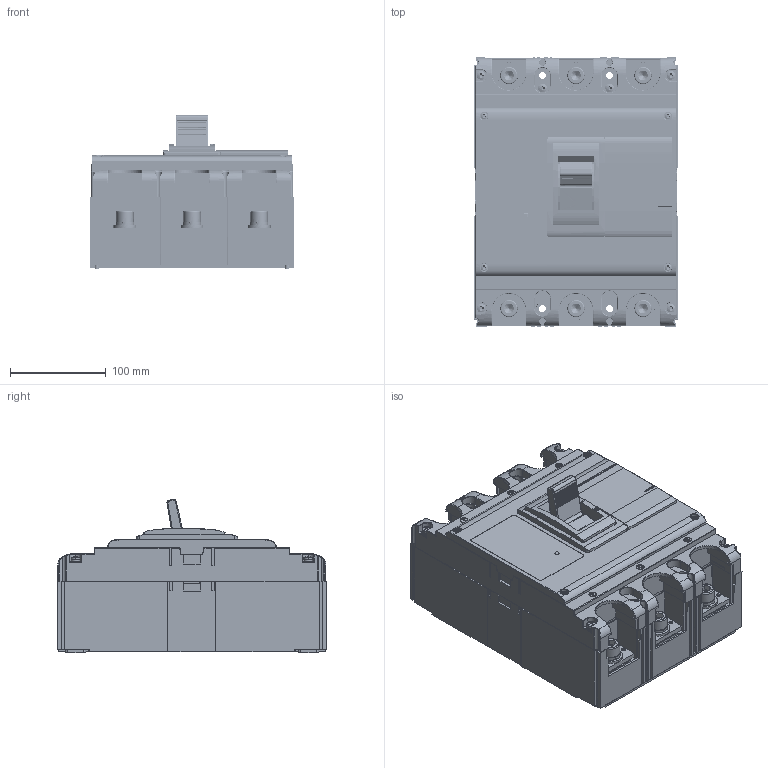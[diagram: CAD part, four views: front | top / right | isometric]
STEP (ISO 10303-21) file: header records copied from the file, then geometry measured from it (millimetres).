
FILE_DESCRIPTION (( 'STEP AP214' ), '1' );
FILE_NAME ('TGM1N-800-3P.STEP', '2025-12-19T06:43:07', ( '' ), ( '' ), 'SwSTEP 2.0', 'SolidWorks 2024', '' );
FILE_SCHEMA (( 'AUTOMOTIVE_DESIGN' ));
Length unit declared in the file: millimetre
Products named in the file (37): TENGEN_1N_TGM1N-800_3P_630-800A_11.stp; TENGEN_1N_TGM1N-800_3P_630-800A_2.stp; TENGEN_1N_TGM1N-800_3P_630-800A_33.stp; TENGEN_1N_TGM1N-800_3P_630-800A_8.stp; TENGEN_1N_TGM1N-800_3P_630-800A_17.stp; TENGEN_1N_TGM1N-800_3P_630-800A_21.stp; TENGEN_1N_TGM1N-800_3P_630-800A_24.stp; TENGEN_1N_TGM1N-800_3P_630-800A_5.stp; TENGEN_1N_TGM1N-800_3P_630-800A_14.stp; TGM1N-800-3P.stp; TENGEN_1N_TGM1N-800_3P_630-800A_25.stp; TENGEN_1N_TGM1N-800_3P_630-800A_9.stp; TENGEN_1N_TGM1N-800_3P_630-800A_20.stp; TENGEN_1N_TGM1N-800_3P_630-800A_30.stp; TENGEN_1N_TGM1N-800_3P_630-800A_26.stp; TENGEN_1N_TGM1N-800_3P_630-800A_28.stp; TENGEN_1N_TGM1N-800_3P_630-800A_16.stp; TENGEN_1N_TGM1N-800_3P_630-800A_18.stp; TENGEN_1N_TGM1N-800_3P_630-800A_34.stp; TENGEN_1N_TGM1N-800_3P_630-800A_3.stp; TGM1N-800-3P; TENGEN_1N_TGM1N-800_3P_630-800A_10.stp; TENGEN_1N_TGM1N-800_3P_630-800A_1.stp; TENGEN_1N_TGM1N-800_3P_630-800A_15.stp; TENGEN_1N_TGM1N-800_3P_630-800A_22.stp; TENGEN_1N_TGM1N-800_3P_630-800A_31.stp; TGM1N-800-3P_1.stp; TENGEN_1N_TGM1N-800_3P_630-800A_4.stp; TENGEN_1N_TGM1N-800_3P_630-800A_13.stp; TENGEN_1N_TGM1N-800_3P_630-800A_7.stp; TENGEN_1N_TGM1N-800_3P_630-800A_27.stp; TENGEN_1N_TGM1N-800_3P_630-800A_23.stp; TENGEN_1N_TGM1N-800_3P_630-800A_19.stp; TENGEN_1N_TGM1N-800_3P_630-800A_32.stp; TENGEN_1N_TGM1N-800_3P_630-800A_12.stp; TENGEN_1N_TGM1N-800_3P_630-800A_29.stp; TENGEN_1N_TGM1N-800_3P_630-800A_6.stp
Assembly tree (36 placements, depth 3):
  TGM1N-800-3P
    TGM1N-800-3P.stp
      TENGEN_1N_TGM1N-800_3P_630-800A_1.stp
      TENGEN_1N_TGM1N-800_3P_630-800A_2.stp
      TENGEN_1N_TGM1N-800_3P_630-800A_3.stp
      TENGEN_1N_TGM1N-800_3P_630-800A_4.stp
      TENGEN_1N_TGM1N-800_3P_630-800A_5.stp
      TENGEN_1N_TGM1N-800_3P_630-800A_6.stp
      TENGEN_1N_TGM1N-800_3P_630-800A_7.stp
      TENGEN_1N_TGM1N-800_3P_630-800A_8.stp
      TENGEN_1N_TGM1N-800_3P_630-800A_9.stp
      TENGEN_1N_TGM1N-800_3P_630-800A_10.stp
      TENGEN_1N_TGM1N-800_3P_630-800A_11.stp
      TENGEN_1N_TGM1N-800_3P_630-800A_12.stp
      TENGEN_1N_TGM1N-800_3P_630-800A_13.stp
      TENGEN_1N_TGM1N-800_3P_630-800A_14.stp
      TENGEN_1N_TGM1N-800_3P_630-800A_15.stp
      TENGEN_1N_TGM1N-800_3P_630-800A_16.stp
      TENGEN_1N_TGM1N-800_3P_630-800A_17.stp
      TENGEN_1N_TGM1N-800_3P_630-800A_18.stp
      TENGEN_1N_TGM1N-800_3P_630-800A_19.stp
      TENGEN_1N_TGM1N-800_3P_630-800A_20.stp
      TENGEN_1N_TGM1N-800_3P_630-800A_21.stp
      TENGEN_1N_TGM1N-800_3P_630-800A_22.stp
      TENGEN_1N_TGM1N-800_3P_630-800A_23.stp
      TENGEN_1N_TGM1N-800_3P_630-800A_24.stp
      TENGEN_1N_TGM1N-800_3P_630-800A_25.stp
      TENGEN_1N_TGM1N-800_3P_630-800A_26.stp
      TENGEN_1N_TGM1N-800_3P_630-800A_27.stp
      TENGEN_1N_TGM1N-800_3P_630-800A_28.stp
      TENGEN_1N_TGM1N-800_3P_630-800A_29.stp
      TENGEN_1N_TGM1N-800_3P_630-800A_30.stp
      TENGEN_1N_TGM1N-800_3P_630-800A_31.stp
      TENGEN_1N_TGM1N-800_3P_630-800A_32.stp
      TENGEN_1N_TGM1N-800_3P_630-800A_33.stp
      TENGEN_1N_TGM1N-800_3P_630-800A_34.stp
      TGM1N-800-3P_1.stp
Bounding box: 212 x 281 x 160.09 mm (x, y, z)
Volume: 3919729.4 mm3; surface area: 665122.5 mm2
Topology: 28 solids, 35 shells, 5640 faces, 14967 edges, 9432 vertices
Faces by surface type: plane 2913, cylinder 1468, sphere 550, torus 338, cone 224, bspline 147
Entity records: 215819 total; most frequent: CARTESIAN_POINT 110754, ORIENTED_EDGE 28157, EDGE_CURVE 14089, B_SPLINE_CURVE_WITH_KNOTS 13716, DIRECTION 11038, VERTEX_POINT 8897, EDGE_LOOP 5736, AXIS2_PLACEMENT_3D 5457
